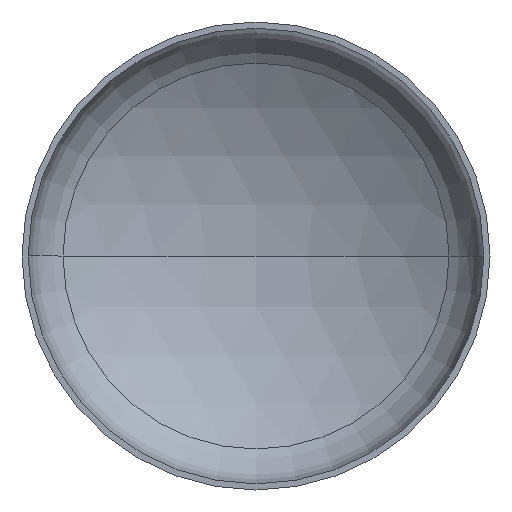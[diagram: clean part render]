
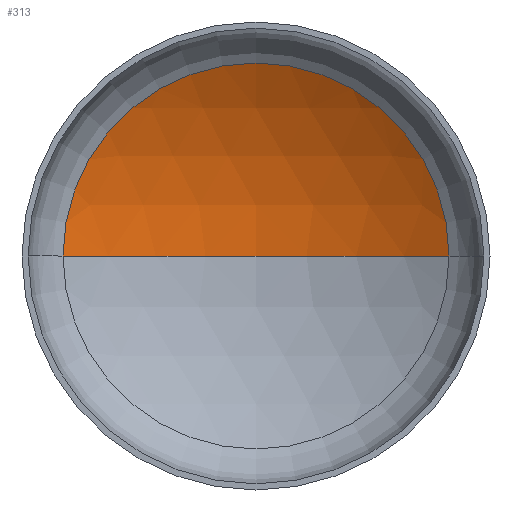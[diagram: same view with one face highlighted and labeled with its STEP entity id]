
A CAD part, front view. The second image highlights one B-rep face of the part: STEP entity #313.
In plain terms, the highlighted spherical face has radius 2240 mm.
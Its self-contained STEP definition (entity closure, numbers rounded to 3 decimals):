
#4 = DIRECTION ( 'NONE',  ( 0., 0., -1. ) ) ;
#7 = DIRECTION ( 'NONE',  ( 0., 0., 1. ) ) ;
#9 = CARTESIAN_POINT ( 'NONE',  ( 0., -1431.003, 0. ) ) ;
#12 = AXIS2_PLACEMENT_3D ( 'NONE', #135, #125, #134 ) ;
#32 = AXIS2_PLACEMENT_3D ( 'NONE', #9, #7, #73 ) ;
#35 = AXIS2_PLACEMENT_3D ( 'NONE', #85, #4, #98 ) ;
#37 = AXIS2_PLACEMENT_3D ( 'NONE', #149, #160, #164 ) ;
#73 = DIRECTION ( 'NONE',  ( 1., 0., 0. ) ) ;
#82 = EDGE_CURVE ( 'NONE', #144, #346, #186, .T. ) ;
#83 = EDGE_CURVE ( 'NONE', #90, #144, #398, .T. ) ;
#84 = EDGE_CURVE ( 'NONE', #90, #346, #254, .T. ) ;
#85 = CARTESIAN_POINT ( 'NONE',  ( 0., -1431.003, 0. ) ) ;
#90 = VERTEX_POINT ( 'NONE', #262 ) ;
#98 = DIRECTION ( 'NONE',  ( -1., 0., 0. ) ) ;
#117 = CARTESIAN_POINT ( 'NONE',  ( -1154.652, 488.47, 0. ) ) ;
#125 = DIRECTION ( 'NONE',  ( 0., 0., -1. ) ) ;
#134 = DIRECTION ( 'NONE',  ( -1., 0., 0. ) ) ;
#135 = CARTESIAN_POINT ( 'NONE',  ( 0., -1431.003, 0. ) ) ;
#139 = CARTESIAN_POINT ( 'NONE',  ( 1154.652, 488.47, 0. ) ) ;
#144 = VERTEX_POINT ( 'NONE', #139 ) ;
#149 = CARTESIAN_POINT ( 'NONE',  ( 0., 488.47, 0. ) ) ;
#150 = FACE_OUTER_BOUND ( 'NONE', #243, .T. ) ;
#160 = DIRECTION ( 'NONE',  ( 0., -1., 0. ) ) ;
#164 = DIRECTION ( 'NONE',  ( 1., 0., 0. ) ) ;
#186 = CIRCLE ( 'NONE', #37, 1154.652 ) ;
#230 = SPHERICAL_SURFACE ( 'NONE', #12, 2240. ) ;
#243 = EDGE_LOOP ( 'NONE', ( #325, #321, #265 ) ) ;
#254 = CIRCLE ( 'NONE', #32, 2240. ) ;
#262 = CARTESIAN_POINT ( 'NONE',  ( 0., 808.997, 0. ) ) ;
#265 = ORIENTED_EDGE ( 'NONE', *, *, #82, .T. ) ;
#313 = ADVANCED_FACE ( 'NONE', ( #150 ), #230, .F. ) ;
#321 = ORIENTED_EDGE ( 'NONE', *, *, #83, .T. ) ;
#325 = ORIENTED_EDGE ( 'NONE', *, *, #84, .F. ) ;
#346 = VERTEX_POINT ( 'NONE', #117 ) ;
#398 = CIRCLE ( 'NONE', #35, 2240. ) ;
